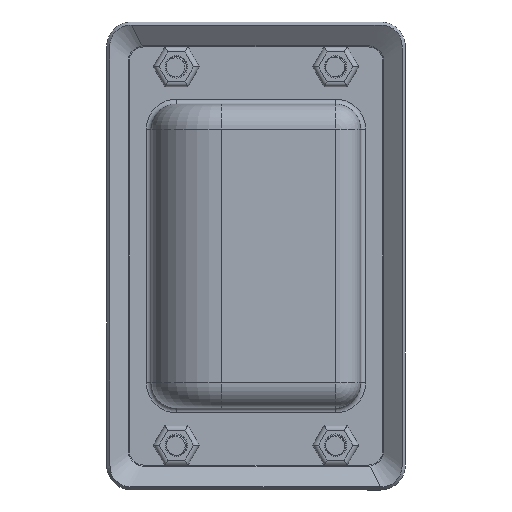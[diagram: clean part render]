
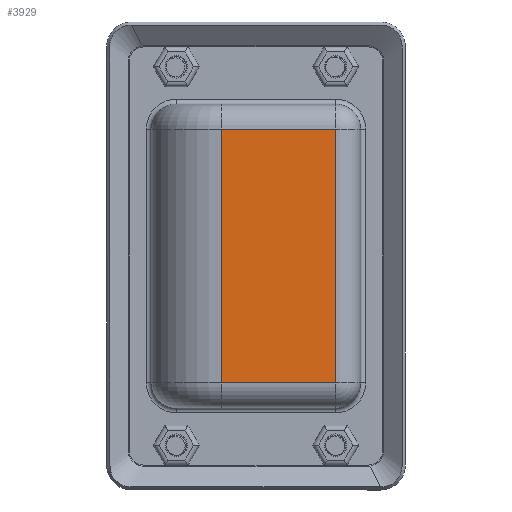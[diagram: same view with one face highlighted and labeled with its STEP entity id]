
A CAD part, front view. The second image highlights one B-rep face of the part: STEP entity #3929.
In plain terms, the highlighted planar face has unit normal (0, -1, 0).
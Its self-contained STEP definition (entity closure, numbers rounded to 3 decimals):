
#660 = EDGE_CURVE ( 'NONE', #4511, #1504, #2512, .T. ) ;
#754 = DIRECTION ( 'NONE',  ( 0., 1., 0. ) ) ;
#1426 = EDGE_LOOP ( 'NONE', ( #12026, #12739, #8400, #5784 ) ) ;
#1504 = VERTEX_POINT ( 'NONE', #18060 ) ;
#2512 = LINE ( 'NONE', #10275, #15499 ) ;
#3004 = CARTESIAN_POINT ( 'NONE',  ( 16., 0., 25.5 ) ) ;
#3516 = DIRECTION ( 'NONE',  ( -1., 0., 0. ) ) ;
#3929 = ADVANCED_FACE ( 'NONE', ( #9523 ), #17611, .F. ) ;
#4511 = VERTEX_POINT ( 'NONE', #4948 ) ;
#4948 = CARTESIAN_POINT ( 'NONE',  ( -7., 0., -25.5 ) ) ;
#5590 = LINE ( 'NONE', #19336, #9255 ) ;
#5784 = ORIENTED_EDGE ( 'NONE', *, *, #11258, .T. ) ;
#6678 = DIRECTION ( 'NONE',  ( 0., 0., 1. ) ) ;
#6984 = VECTOR ( 'NONE', #6678, 1000. ) ;
#7291 = DIRECTION ( 'NONE',  ( 0., 0., 1. ) ) ;
#7546 = EDGE_CURVE ( 'NONE', #4511, #11742, #5590, .T. ) ;
#7719 = CARTESIAN_POINT ( 'NONE',  ( -7., 0., 25.5 ) ) ;
#8400 = ORIENTED_EDGE ( 'NONE', *, *, #10888, .T. ) ;
#9096 = VERTEX_POINT ( 'NONE', #3004 ) ;
#9255 = VECTOR ( 'NONE', #7291, 1000. ) ;
#9523 = FACE_OUTER_BOUND ( 'NONE', #1426, .T. ) ;
#10275 = CARTESIAN_POINT ( 'NONE',  ( 0., 0., -25.5 ) ) ;
#10888 = EDGE_CURVE ( 'NONE', #1504, #9096, #12636, .T. ) ;
#11258 = EDGE_CURVE ( 'NONE', #9096, #11742, #18773, .T. ) ;
#11339 = AXIS2_PLACEMENT_3D ( 'NONE', #16090, #754, #11546 ) ;
#11546 = DIRECTION ( 'NONE',  ( 0., 0., 1. ) ) ;
#11742 = VERTEX_POINT ( 'NONE', #7719 ) ;
#12026 = ORIENTED_EDGE ( 'NONE', *, *, #7546, .F. ) ;
#12636 = LINE ( 'NONE', #17092, #6984 ) ;
#12739 = ORIENTED_EDGE ( 'NONE', *, *, #660, .T. ) ;
#15499 = VECTOR ( 'NONE', #16531, 1000. ) ;
#16020 = VECTOR ( 'NONE', #3516, 1000. ) ;
#16090 = CARTESIAN_POINT ( 'NONE',  ( 0., 0., 0. ) ) ;
#16531 = DIRECTION ( 'NONE',  ( 1., 0., 0. ) ) ;
#17092 = CARTESIAN_POINT ( 'NONE',  ( 16., 0., -30.5 ) ) ;
#17566 = CARTESIAN_POINT ( 'NONE',  ( 0., 0., 25.5 ) ) ;
#17611 = PLANE ( 'NONE',  #11339 ) ;
#18060 = CARTESIAN_POINT ( 'NONE',  ( 16., 0., -25.5 ) ) ;
#18773 = LINE ( 'NONE', #17566, #16020 ) ;
#19336 = CARTESIAN_POINT ( 'NONE',  ( -7., 0., -30.5 ) ) ;
